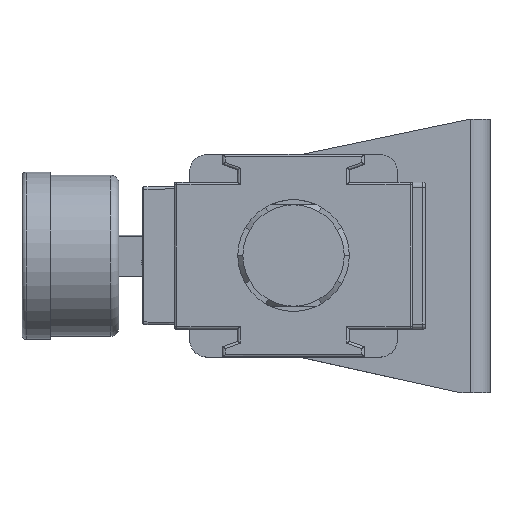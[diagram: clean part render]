
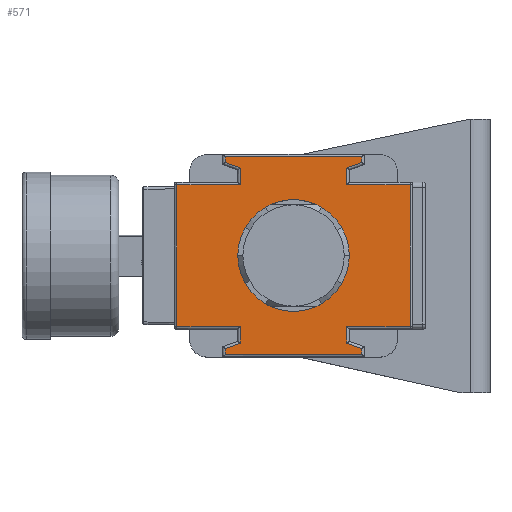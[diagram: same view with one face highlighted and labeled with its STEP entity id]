
A CAD part, top view. The second image highlights one B-rep face of the part: STEP entity #571.
In plain terms, the highlighted planar face has unit normal (0, 0, 1).
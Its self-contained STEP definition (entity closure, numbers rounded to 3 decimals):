
#571=ADVANCED_FACE('',(#1858,#1859),#1860,.T.);
#1858=FACE_BOUND('',#5251,.T.);
#1859=FACE_OUTER_BOUND('',#5252,.T.);
#1860=PLANE('',#5253);
#5251=EDGE_LOOP('',(#10903));
#5252=EDGE_LOOP('',(#10904,#10905,#10906,#10907,#10908,#10909,#10910,#10911,#10912,#10913,#10914,#10915,#10916,#10917,#10918,#10919,#10920,#10921,#10922,#10923));
#5253=AXIS2_PLACEMENT_3D('',#10924,#10925,#10926);
#10903=ORIENTED_EDGE('',*,*,#14063,.T.);
#10904=ORIENTED_EDGE('',*,*,#13725,.F.);
#10905=ORIENTED_EDGE('',*,*,#13612,.F.);
#10906=ORIENTED_EDGE('',*,*,#12854,.F.);
#10907=ORIENTED_EDGE('',*,*,#14099,.F.);
#10908=ORIENTED_EDGE('',*,*,#13969,.F.);
#10909=ORIENTED_EDGE('',*,*,#14100,.F.);
#10910=ORIENTED_EDGE('',*,*,#13953,.F.);
#10911=ORIENTED_EDGE('',*,*,#14101,.F.);
#10912=ORIENTED_EDGE('',*,*,#13273,.F.);
#10913=ORIENTED_EDGE('',*,*,#13832,.F.);
#10914=ORIENTED_EDGE('',*,*,#14102,.F.);
#10915=ORIENTED_EDGE('',*,*,#14054,.F.);
#10916=ORIENTED_EDGE('',*,*,#13789,.F.);
#10917=ORIENTED_EDGE('',*,*,#13128,.F.);
#10918=ORIENTED_EDGE('',*,*,#14103,.F.);
#10919=ORIENTED_EDGE('',*,*,#13919,.F.);
#10920=ORIENTED_EDGE('',*,*,#14084,.F.);
#10921=ORIENTED_EDGE('',*,*,#12802,.F.);
#10922=ORIENTED_EDGE('',*,*,#13302,.F.);
#10923=ORIENTED_EDGE('',*,*,#13423,.F.);
#10924=CARTESIAN_POINT('',(-17.685,48.104,41.5));
#10925=DIRECTION('',(0.,0.,1.0));
#10926=DIRECTION('',(0.0,-1.0,0.));
#12802=EDGE_CURVE('',#14847,#14849,#14850,.T.);
#12854=EDGE_CURVE('',#14944,#14946,#14947,.T.);
#13128=EDGE_CURVE('',#15442,#15444,#15445,.T.);
#13273=EDGE_CURVE('',#15691,#15692,#15693,.T.);
#13302=EDGE_CURVE('',#15739,#14847,#15740,.T.);
#13423=EDGE_CURVE('',#14933,#15739,#15944,.T.);
#13612=EDGE_CURVE('',#14946,#16121,#16247,.T.);
#13725=EDGE_CURVE('',#16121,#14933,#16417,.T.);
#13789=EDGE_CURVE('',#15444,#16512,#16513,.T.);
#13832=EDGE_CURVE('',#16574,#15691,#16576,.T.);
#13919=EDGE_CURVE('',#16701,#16702,#16703,.T.);
#13953=EDGE_CURVE('',#16749,#16750,#16751,.T.);
#13969=EDGE_CURVE('',#16771,#16773,#16774,.T.);
#14054=EDGE_CURVE('',#16512,#16859,#16884,.T.);
#14063=EDGE_CURVE('',#16895,#16895,#16896,.T.);
#14084=EDGE_CURVE('',#14849,#16701,#16926,.T.);
#14099=EDGE_CURVE('',#16773,#14944,#16945,.T.);
#14100=EDGE_CURVE('',#16750,#16771,#16946,.T.);
#14101=EDGE_CURVE('',#15692,#16749,#16947,.T.);
#14102=EDGE_CURVE('',#16859,#16574,#16948,.T.);
#14103=EDGE_CURVE('',#16702,#15442,#16949,.T.);
#14847=VERTEX_POINT('',#18509);
#14849=VERTEX_POINT('',#18511);
#14850=LINE('',#18512,#18513);
#14933=VERTEX_POINT('',#18682);
#14944=VERTEX_POINT('',#18694);
#14946=VERTEX_POINT('',#18696);
#14947=LINE('',#18697,#18698);
#15442=VERTEX_POINT('',#21975);
#15444=VERTEX_POINT('',#21977);
#15445=LINE('',#21978,#21979);
#15691=VERTEX_POINT('',#22780);
#15692=VERTEX_POINT('',#22781);
#15693=LINE('',#22782,#22783);
#15739=VERTEX_POINT('',#23039);
#15740=LINE('',#23040,#23041);
#15944=LINE('',#23433,#23434);
#16121=VERTEX_POINT('',#23749);
#16247=LINE('',#24016,#24017);
#16417=LINE('',#24296,#24297);
#16512=VERTEX_POINT('',#24513);
#16513=LINE('',#24514,#24515);
#16574=VERTEX_POINT('',#24674);
#16576=LINE('',#24676,#24677);
#16701=VERTEX_POINT('',#24998);
#16702=VERTEX_POINT('',#24999);
#16703=LINE('',#25000,#25001);
#16749=VERTEX_POINT('',#25095);
#16750=VERTEX_POINT('',#25096);
#16751=LINE('',#25097,#25098);
#16771=VERTEX_POINT('',#25145);
#16773=VERTEX_POINT('',#25147);
#16774=LINE('',#25148,#25149);
#16859=VERTEX_POINT('',#25315);
#16884=LINE('',#25428,#25429);
#16895=VERTEX_POINT('',#25514);
#16896=CIRCLE('',#25515,11.0);
#16926=LINE('',#25569,#25570);
#16945=LINE('',#25608,#25609);
#16946=LINE('',#25610,#25611);
#16947=LINE('',#25612,#25613);
#16948=LINE('',#25614,#25615);
#16949=LINE('',#25616,#25617);
#18509=CARTESIAN_POINT('',(-28.185,65.362,41.5));
#18511=CARTESIAN_POINT('',(-31.185,66.454,41.5));
#18512=CARTESIAN_POINT('',(-20.94,62.725,41.5));
#18513=VECTOR('',#26414,1.0);
#18682=CARTESIAN_POINT('',(-40.685,62.104,41.5));
#18694=CARTESIAN_POINT('',(-28.185,30.846,41.5));
#18696=CARTESIAN_POINT('',(-28.185,34.104,41.5));
#18697=CARTESIAN_POINT('',(-28.185,40.854,41.5));
#18698=VECTOR('',#26499,1.0);
#21975=CARTESIAN_POINT('',(-4.185,66.454,41.5));
#21977=CARTESIAN_POINT('',(-7.185,65.362,41.5));
#21978=CARTESIAN_POINT('',(-14.43,62.725,41.5));
#21979=VECTOR('',#26984,1.0);
#22780=CARTESIAN_POINT('',(-7.185,34.104,41.5));
#22781=CARTESIAN_POINT('',(-7.185,30.846,41.5));
#22782=CARTESIAN_POINT('',(-7.185,40.854,41.5));
#22783=VECTOR('',#27170,1.0);
#23039=CARTESIAN_POINT('',(-28.185,62.104,41.5));
#23040=CARTESIAN_POINT('',(-28.185,55.354,41.5));
#23041=VECTOR('',#27207,1.0);
#23433=CARTESIAN_POINT('',(-29.435,62.104,41.5));
#23434=VECTOR('',#27402,1.0);
#23749=CARTESIAN_POINT('',(-40.685,34.104,41.5));
#24016=CARTESIAN_POINT('',(-29.435,34.104,41.5));
#24017=VECTOR('',#27679,1.0);
#24296=CARTESIAN_POINT('',(-40.685,38.104,41.5));
#24297=VECTOR('',#27843,1.0);
#24513=CARTESIAN_POINT('',(-7.185,62.104,41.5));
#24514=CARTESIAN_POINT('',(-7.185,55.354,41.5));
#24515=VECTOR('',#27926,1.0);
#24674=CARTESIAN_POINT('',(5.315,34.104,41.5));
#24676=CARTESIAN_POINT('',(-5.935,34.104,41.5));
#24677=VECTOR('',#27977,1.0);
#24998=CARTESIAN_POINT('',(-31.185,67.604,41.5));
#24999=CARTESIAN_POINT('',(-4.185,67.604,41.5));
#25000=CARTESIAN_POINT('',(-29.435,67.604,41.5));
#25001=VECTOR('',#28096,1.0);
#25095=CARTESIAN_POINT('',(-4.185,29.754,41.5));
#25096=CARTESIAN_POINT('',(-4.185,28.604,41.5));
#25097=CARTESIAN_POINT('',(-4.185,38.354,41.5));
#25098=VECTOR('',#28160,1.0);
#25145=CARTESIAN_POINT('',(-31.185,28.604,41.5));
#25147=CARTESIAN_POINT('',(-31.185,29.754,41.5));
#25148=CARTESIAN_POINT('',(-31.185,38.354,41.5));
#25149=VECTOR('',#28187,1.0);
#25315=CARTESIAN_POINT('',(5.315,62.104,41.5));
#25428=CARTESIAN_POINT('',(-5.935,62.104,41.5));
#25429=VECTOR('',#28314,1.0);
#25514=CARTESIAN_POINT('',(-28.685,48.104,41.5));
#25515=AXIS2_PLACEMENT_3D('',#28323,#28324,#28325);
#25569=CARTESIAN_POINT('',(-31.185,57.854,41.5));
#25570=VECTOR('',#28353,1.0);
#25608=CARTESIAN_POINT('',(-20.94,33.483,41.5));
#25609=VECTOR('',#28373,1.0);
#25610=CARTESIAN_POINT('',(-5.935,28.604,41.5));
#25611=VECTOR('',#28374,1.0);
#25612=CARTESIAN_POINT('',(-14.43,33.483,41.5));
#25613=VECTOR('',#28375,1.0);
#25614=CARTESIAN_POINT('',(5.315,58.104,41.5));
#25615=VECTOR('',#28376,1.0);
#25616=CARTESIAN_POINT('',(-4.185,57.854,41.5));
#25617=VECTOR('',#28377,1.0);
#26414=DIRECTION('',(-0.94,0.342,0.));
#26499=DIRECTION('',(0.,1.0,0.));
#26984=DIRECTION('',(-0.94,-0.342,0.));
#27170=DIRECTION('',(0.,-1.0,0.));
#27207=DIRECTION('',(0.,1.0,0.));
#27402=DIRECTION('',(1.0,0.,0.));
#27679=DIRECTION('',(-1.0,0.,0.));
#27843=DIRECTION('',(0.,1.0,0.));
#27926=DIRECTION('',(0.,-1.0,0.));
#27977=DIRECTION('',(-1.0,0.,0.));
#28096=DIRECTION('',(1.0,0.,0.));
#28160=DIRECTION('',(0.,-1.0,0.));
#28187=DIRECTION('',(0.,1.0,0.));
#28314=DIRECTION('',(1.0,0.,0.));
#28323=CARTESIAN_POINT('',(-17.685,48.104,41.5));
#28324=DIRECTION('',(0.,0.,-1.0));
#28325=DIRECTION('',(-1.0,0.,0.));
#28353=DIRECTION('',(0.,1.0,0.));
#28373=DIRECTION('',(0.94,0.342,0.));
#28374=DIRECTION('',(-1.0,0.,0.));
#28375=DIRECTION('',(0.94,-0.342,0.));
#28376=DIRECTION('',(0.,-1.0,0.));
#28377=DIRECTION('',(0.,-1.0,0.));
